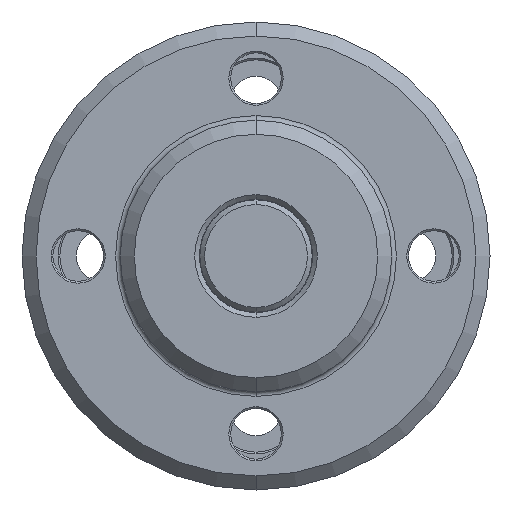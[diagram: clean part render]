
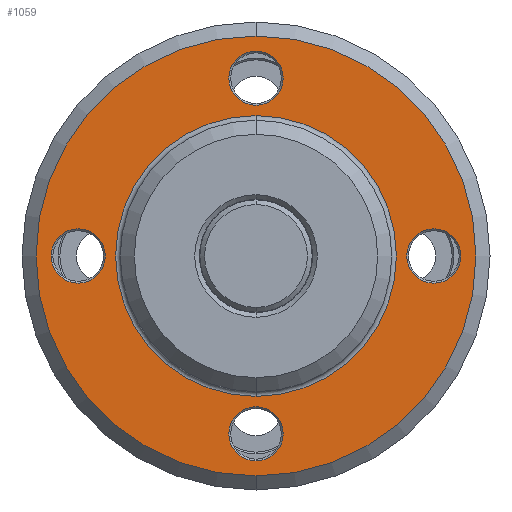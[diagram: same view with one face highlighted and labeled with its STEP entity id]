
A CAD part, front view. The second image highlights one B-rep face of the part: STEP entity #1059.
In plain terms, the highlighted planar face has unit normal (0, -1, 0).
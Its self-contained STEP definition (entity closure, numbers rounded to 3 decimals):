
#35 = CIRCLE ( 'NONE', #4429, 2.9 ) ;
#141 = DIRECTION ( 'NONE',  ( 0., 0., -1. ) ) ;
#146 = CARTESIAN_POINT ( 'NONE',  ( 0., -8., -15. ) ) ;
#157 = DIRECTION ( 'NONE',  ( 0., 0., -1. ) ) ;
#329 = EDGE_LOOP ( 'NONE', ( #6277, #1665 ) ) ;
#377 = EDGE_CURVE ( 'NONE', #5192, #1191, #3925, .T. ) ;
#431 = VERTEX_POINT ( 'NONE', #3783 ) ;
#443 = CIRCLE ( 'NONE', #4824, 15. ) ;
#635 = EDGE_LOOP ( 'NONE', ( #1033, #6724 ) ) ;
#670 = CARTESIAN_POINT ( 'NONE',  ( 0., -8., -19. ) ) ;
#739 = DIRECTION ( 'NONE',  ( 0., 1., 0. ) ) ;
#753 = VERTEX_POINT ( 'NONE', #1521 ) ;
#1033 = ORIENTED_EDGE ( 'NONE', *, *, #4032, .T. ) ;
#1059 = ADVANCED_FACE ( 'NONE', ( #6525, #6357, #2678, #1196, #6680, #5868 ), #2781, .T. ) ;
#1075 = CARTESIAN_POINT ( 'NONE',  ( 19., -8., 0. ) ) ;
#1080 = CARTESIAN_POINT ( 'NONE',  ( 0., -8., 16.1 ) ) ;
#1191 = VERTEX_POINT ( 'NONE', #2289 ) ;
#1196 = FACE_BOUND ( 'NONE', #2966, .T. ) ;
#1221 = DIRECTION ( 'NONE',  ( 0., 0., -1. ) ) ;
#1301 = VERTEX_POINT ( 'NONE', #2419 ) ;
#1383 = AXIS2_PLACEMENT_3D ( 'NONE', #5010, #5466, #6469 ) ;
#1390 = CARTESIAN_POINT ( 'NONE',  ( 0., -8., 0. ) ) ;
#1398 = VERTEX_POINT ( 'NONE', #1080 ) ;
#1429 = CIRCLE ( 'NONE', #1383, 2.9 ) ;
#1438 = AXIS2_PLACEMENT_3D ( 'NONE', #4298, #5351, #6349 ) ;
#1458 = CARTESIAN_POINT ( 'NONE',  ( 0., -8., -19. ) ) ;
#1462 = VERTEX_POINT ( 'NONE', #4263 ) ;
#1475 = DIRECTION ( 'NONE',  ( 0., 1., 0. ) ) ;
#1521 = CARTESIAN_POINT ( 'NONE',  ( 0., -8., 15. ) ) ;
#1595 = DIRECTION ( 'NONE',  ( 0., 0., -1. ) ) ;
#1665 = ORIENTED_EDGE ( 'NONE', *, *, #4062, .T. ) ;
#1695 = CIRCLE ( 'NONE', #1438, 23.5 ) ;
#1739 = DIRECTION ( 'NONE',  ( 0., -1., 0. ) ) ;
#1856 = VERTEX_POINT ( 'NONE', #1931 ) ;
#1863 = DIRECTION ( 'NONE',  ( 0., 0., -1. ) ) ;
#1876 = CARTESIAN_POINT ( 'NONE',  ( 0., -8., 19. ) ) ;
#1931 = CARTESIAN_POINT ( 'NONE',  ( 0., -8., -23.5 ) ) ;
#2147 = EDGE_CURVE ( 'NONE', #1462, #1856, #4261, .T. ) ;
#2289 = CARTESIAN_POINT ( 'NONE',  ( 0., -8., -16.1 ) ) ;
#2319 = DIRECTION ( 'NONE',  ( 0., 0., -1. ) ) ;
#2341 = ORIENTED_EDGE ( 'NONE', *, *, #5822, .T. ) ;
#2417 = AXIS2_PLACEMENT_3D ( 'NONE', #670, #3854, #3804 ) ;
#2419 = CARTESIAN_POINT ( 'NONE',  ( 19., -8., -2.9 ) ) ;
#2429 = VERTEX_POINT ( 'NONE', #2667 ) ;
#2435 = ORIENTED_EDGE ( 'NONE', *, *, #6055, .T. ) ;
#2464 = CARTESIAN_POINT ( 'NONE',  ( 0., -8., -21.9 ) ) ;
#2482 = DIRECTION ( 'NONE',  ( 0., 0., -1. ) ) ;
#2568 = EDGE_LOOP ( 'NONE', ( #5172, #2341 ) ) ;
#2667 = CARTESIAN_POINT ( 'NONE',  ( -19., -8., -2.9 ) ) ;
#2678 = FACE_BOUND ( 'NONE', #329, .T. ) ;
#2713 = DIRECTION ( 'NONE',  ( 0., 1., 0. ) ) ;
#2764 = DIRECTION ( 'NONE',  ( 0., -1., 0. ) ) ;
#2781 = PLANE ( 'NONE',  #4098 ) ;
#2793 = AXIS2_PLACEMENT_3D ( 'NONE', #5894, #2764, #141 ) ;
#2855 = ORIENTED_EDGE ( 'NONE', *, *, #2147, .T. ) ;
#2934 = AXIS2_PLACEMENT_3D ( 'NONE', #4788, #2713, #5400 ) ;
#2937 = CARTESIAN_POINT ( 'NONE',  ( -19., -8., 2.9 ) ) ;
#2966 = EDGE_LOOP ( 'NONE', ( #3356, #4057 ) ) ;
#3076 = CIRCLE ( 'NONE', #5504, 15. ) ;
#3100 = VERTEX_POINT ( 'NONE', #2937 ) ;
#3112 = AXIS2_PLACEMENT_3D ( 'NONE', #1075, #5727, #1595 ) ;
#3113 = DIRECTION ( 'NONE',  ( 0., 1., 0. ) ) ;
#3246 = CIRCLE ( 'NONE', #2934, 2.9 ) ;
#3283 = ORIENTED_EDGE ( 'NONE', *, *, #5972, .T. ) ;
#3321 = CIRCLE ( 'NONE', #4070, 2.9 ) ;
#3356 = ORIENTED_EDGE ( 'NONE', *, *, #3645, .T. ) ;
#3456 = VERTEX_POINT ( 'NONE', #3932 ) ;
#3502 = DIRECTION ( 'NONE',  ( 0., 1., 0. ) ) ;
#3609 = EDGE_CURVE ( 'NONE', #753, #6044, #443, .T. ) ;
#3645 = EDGE_CURVE ( 'NONE', #6044, #753, #3076, .T. ) ;
#3783 = CARTESIAN_POINT ( 'NONE',  ( 19., -8., 2.9 ) ) ;
#3804 = DIRECTION ( 'NONE',  ( 0., 0., -1. ) ) ;
#3823 = CIRCLE ( 'NONE', #5224, 2.9 ) ;
#3854 = DIRECTION ( 'NONE',  ( 0., 1., 0. ) ) ;
#3925 = CIRCLE ( 'NONE', #2417, 2.9 ) ;
#3932 = CARTESIAN_POINT ( 'NONE',  ( 0., -8., 21.9 ) ) ;
#4032 = EDGE_CURVE ( 'NONE', #2429, #3100, #1429, .T. ) ;
#4057 = ORIENTED_EDGE ( 'NONE', *, *, #3609, .T. ) ;
#4062 = EDGE_CURVE ( 'NONE', #3456, #1398, #35, .T. ) ;
#4070 = AXIS2_PLACEMENT_3D ( 'NONE', #5500, #4541, #5608 ) ;
#4098 = AXIS2_PLACEMENT_3D ( 'NONE', #6363, #1739, #157 ) ;
#4261 = CIRCLE ( 'NONE', #2793, 23.5 ) ;
#4263 = CARTESIAN_POINT ( 'NONE',  ( 0., -8., 23.5 ) ) ;
#4298 = CARTESIAN_POINT ( 'NONE',  ( 0., -8., 0. ) ) ;
#4351 = EDGE_CURVE ( 'NONE', #431, #1301, #3321, .T. ) ;
#4363 = DIRECTION ( 'NONE',  ( 0., 1., 0. ) ) ;
#4429 = AXIS2_PLACEMENT_3D ( 'NONE', #1876, #739, #2319 ) ;
#4541 = DIRECTION ( 'NONE',  ( 0., 1., 0. ) ) ;
#4788 = CARTESIAN_POINT ( 'NONE',  ( -19., -8., 0. ) ) ;
#4824 = AXIS2_PLACEMENT_3D ( 'NONE', #1390, #3502, #1863 ) ;
#5010 = CARTESIAN_POINT ( 'NONE',  ( -19., -8., 0. ) ) ;
#5158 = DIRECTION ( 'NONE',  ( 0., 0., -1. ) ) ;
#5172 = ORIENTED_EDGE ( 'NONE', *, *, #377, .T. ) ;
#5192 = VERTEX_POINT ( 'NONE', #2464 ) ;
#5224 = AXIS2_PLACEMENT_3D ( 'NONE', #1458, #1475, #5158 ) ;
#5351 = DIRECTION ( 'NONE',  ( 0., -1., 0. ) ) ;
#5400 = DIRECTION ( 'NONE',  ( 0., 0., -1. ) ) ;
#5466 = DIRECTION ( 'NONE',  ( 0., 1., 0. ) ) ;
#5500 = CARTESIAN_POINT ( 'NONE',  ( 19., -8., 0. ) ) ;
#5504 = AXIS2_PLACEMENT_3D ( 'NONE', #6231, #3113, #2482 ) ;
#5608 = DIRECTION ( 'NONE',  ( 0., 0., -1. ) ) ;
#5727 = DIRECTION ( 'NONE',  ( 0., 1., 0. ) ) ;
#5822 = EDGE_CURVE ( 'NONE', #1191, #5192, #3823, .T. ) ;
#5831 = EDGE_LOOP ( 'NONE', ( #2855, #2435 ) ) ;
#5867 = EDGE_LOOP ( 'NONE', ( #3283, #6579 ) ) ;
#5868 = FACE_BOUND ( 'NONE', #5867, .T. ) ;
#5894 = CARTESIAN_POINT ( 'NONE',  ( 0., -8., 0. ) ) ;
#5916 = CARTESIAN_POINT ( 'NONE',  ( 0., -8., 19. ) ) ;
#5972 = EDGE_CURVE ( 'NONE', #1301, #431, #6435, .T. ) ;
#6004 = AXIS2_PLACEMENT_3D ( 'NONE', #5916, #4363, #1221 ) ;
#6044 = VERTEX_POINT ( 'NONE', #146 ) ;
#6055 = EDGE_CURVE ( 'NONE', #1856, #1462, #1695, .T. ) ;
#6088 = EDGE_CURVE ( 'NONE', #3100, #2429, #3246, .T. ) ;
#6202 = EDGE_CURVE ( 'NONE', #1398, #3456, #6510, .T. ) ;
#6231 = CARTESIAN_POINT ( 'NONE',  ( 0., -8., 0. ) ) ;
#6277 = ORIENTED_EDGE ( 'NONE', *, *, #6202, .T. ) ;
#6349 = DIRECTION ( 'NONE',  ( 0., 0., -1. ) ) ;
#6357 = FACE_BOUND ( 'NONE', #635, .T. ) ;
#6363 = CARTESIAN_POINT ( 'NONE',  ( 14.5, -8., 0. ) ) ;
#6435 = CIRCLE ( 'NONE', #3112, 2.9 ) ;
#6469 = DIRECTION ( 'NONE',  ( 0., 0., -1. ) ) ;
#6510 = CIRCLE ( 'NONE', #6004, 2.9 ) ;
#6525 = FACE_BOUND ( 'NONE', #2568, .T. ) ;
#6579 = ORIENTED_EDGE ( 'NONE', *, *, #4351, .T. ) ;
#6680 = FACE_OUTER_BOUND ( 'NONE', #5831, .T. ) ;
#6724 = ORIENTED_EDGE ( 'NONE', *, *, #6088, .T. ) ;
